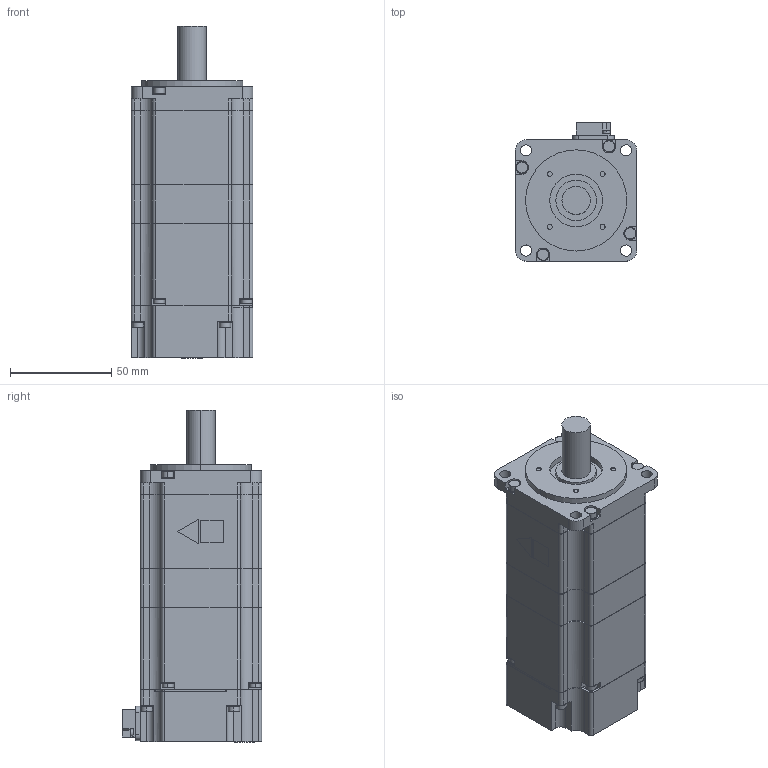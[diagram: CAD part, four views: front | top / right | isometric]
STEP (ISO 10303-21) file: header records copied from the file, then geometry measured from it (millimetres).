
FILE_DESCRIPTION (( 'STEP AP203' ), '1' );
FILE_NAME ('sgm7a_04a6a2c.STEP', '2016-11-12T04:44:16', ( '匠エンジニアリング山之内' ), ( 'TAKUMI-Engniaring' ), 'SwSTEP 2.0', 'SolidWorks 2006303', '' );
FILE_SCHEMA (( 'CONFIG_CONTROL_DESIGN' ));
Length unit declared in the file: millimetre
Products named in the file (1): sgm7a_04a6a2c
Bounding box: 60.1 x 68.8 x 164.1 mm (x, y, z)
Volume: 435167.6 mm3; surface area: 43797.9 mm2
Topology: 1 solids, 1 shells, 508 faces, 1334 edges, 884 vertices
Faces by surface type: plane 283, cylinder 225
Entity records: 15861 total; most frequent: DIRECTION 2818, CARTESIAN_POINT 2741, ORIENTED_EDGE 2668, EDGE_CURVE 1334, AXIS2_PLACEMENT_3D 977, VERTEX_POINT 884, VECTOR 864, LINE 864
